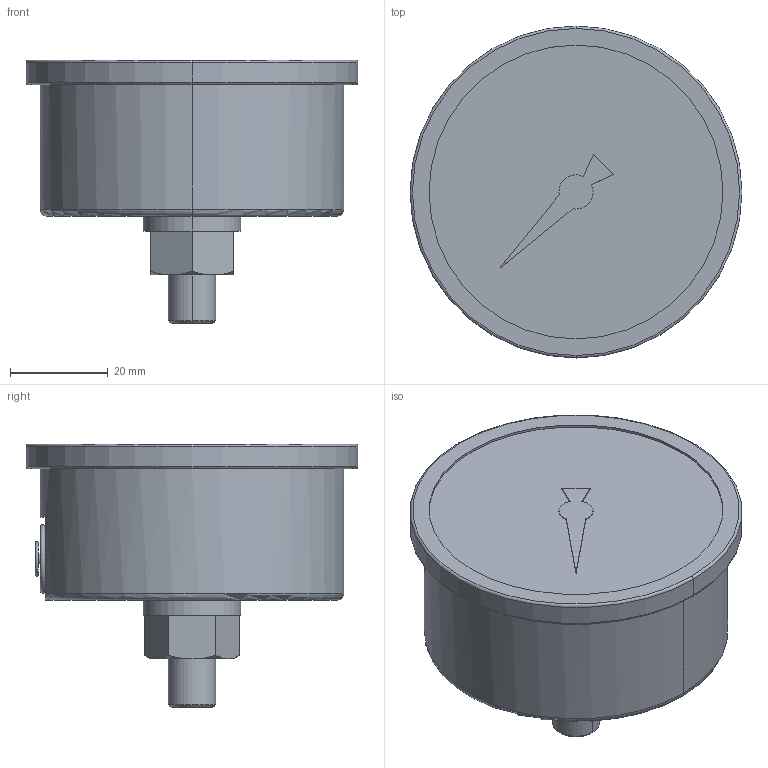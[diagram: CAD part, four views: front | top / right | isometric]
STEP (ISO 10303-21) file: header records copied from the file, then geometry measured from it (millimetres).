
FILE_DESCRIPTION((''),'2;1');
FILE_NAME('R412010129','2020-10-06T20:09:52',('GIO1HC'),(''),'CREO PARAMETRIC BY PTC INC, 2018190','CREO PARAMETRIC BY PTC INC, 2018190','');
FILE_SCHEMA(('AUTOMOTIVE_DESIGN { 1 0 10303 214 1 1 1 1 }'));
Length unit declared in the file: millimetre
Products named in the file (1): R412010129
Bounding box: 68 x 68 x 54 mm (x, y, z)
Volume: 102615.9 mm3; surface area: 14658.6 mm2
Topology: 1 solids, 1 shells, 56 faces, 128 edges, 83 vertices
Faces by surface type: plane 24, cylinder 14, torus 10, cone 8
Entity records: 1945 total; most frequent: CARTESIAN_POINT 475, DIRECTION 306, ORIENTED_EDGE 256, EDGE_CURVE 128, AXIS2_PLACEMENT_3D 127, VERTEX_POINT 83, EDGE_LOOP 65, CIRCLE 62
